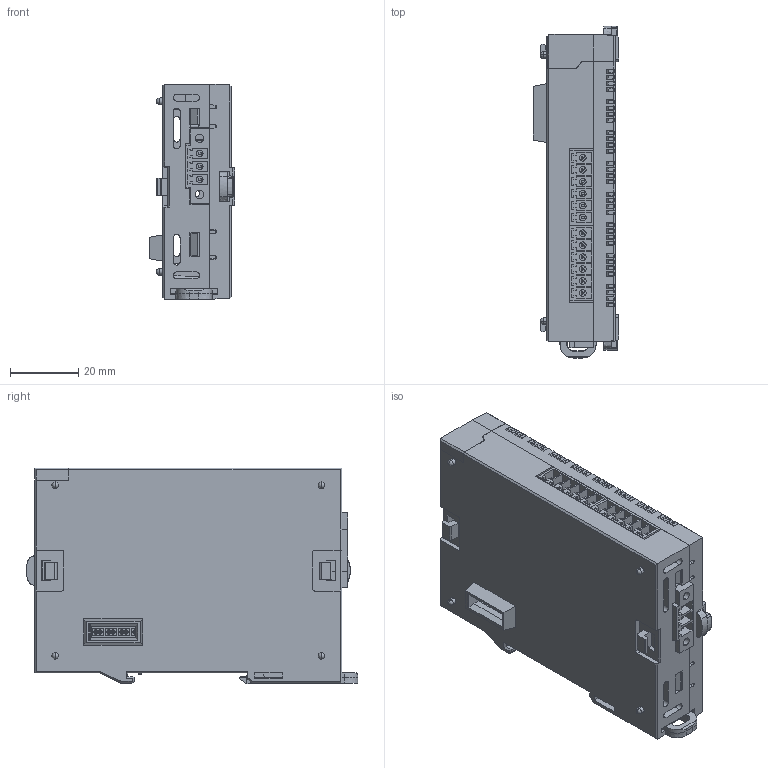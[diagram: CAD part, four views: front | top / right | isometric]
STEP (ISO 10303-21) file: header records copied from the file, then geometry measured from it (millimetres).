
FILE_DESCRIPTION (( 'STEP AP214' ), '1' );
FILE_NAME ('IO-SA0202Y, SA0400Y.STEP', '2023-11-10T19:05:46', ( '' ), ( '' ), 'SwSTEP 2.0', 'SolidWorks 2019', '' );
FILE_SCHEMA (( 'AUTOMOTIVE_DESIGN' ));
Length unit declared in the file: inch
Products named in the file (14): CM3_Din Rail Hook_BCP09271_A.STEP; Connector_BS127DS-SP45-20G,1.27_BCP22147.STEP; LED Reflector_BCP09272_plcs_4_A.STEP; CM3-SP04EAO_???_20180404.STEP.STEP; window small_PLCS Ecase_A.STEP; Connector_15EDGRM_3.81_03P_BCP22124_degson.STEP; 3.5_6P_A.STEP; IO-SA0202Y, SA0400Y; Assy PCB_SP04ERO.STEP; Connector_FH25-D10G_M3.5_BCP22083.STEP; Left case_BCP 09258_LC12P_A.STEP; CM3_Exp Hook_BCP09270_A.STEP; PCB_SP04EAO.STEP; Right Case_BCP09263_PLCS Ecase RC_common_A.STEP
Assembly tree (17 placements, depth 4):
  IO-SA0202Y, SA0400Y
    CM3-SP04EAO_???_20180404.STEP.STEP
      Assy PCB_SP04ERO.STEP
        PCB_SP04EAO.STEP
        Connector_BS127DS-SP45-20G,1.27_BCP22147.STEP  x2
        Connector_FH25-D10G_M3.5_BCP22083.STEP
        3.5_6P_A.STEP  x2
        Connector_15EDGRM_3.81_03P_BCP22124_degson.STEP
      window small_PLCS Ecase_A.STEP
      Right Case_BCP09263_PLCS Ecase RC_common_A.STEP
      LED Reflector_BCP09272_plcs_4_A.STEP  x2
      CM3_Exp Hook_BCP09270_A.STEP  x2
      CM3_Din Rail Hook_BCP09271_A.STEP
      Left case_BCP 09258_LC12P_A.STEP
Bounding box: 25 x 97.2 x 63.2 mm (x, y, z)
Volume: 39829 mm3; surface area: 58876.6 mm2
Topology: 15 solids, 15 shells, 3726 faces, 10272 edges, 6582 vertices
Faces by surface type: plane 3209, cylinder 394, cone 66, bspline 31, torus 14, sphere 12
Entity records: 91953 total; most frequent: CARTESIAN_POINT 16469, ORIENTED_EDGE 15292, DIRECTION 13506, EDGE_CURVE 7646, LINE 6866, VECTOR 6866, VERTEX_POINT 4930, AXIS2_PLACEMENT_3D 3320
